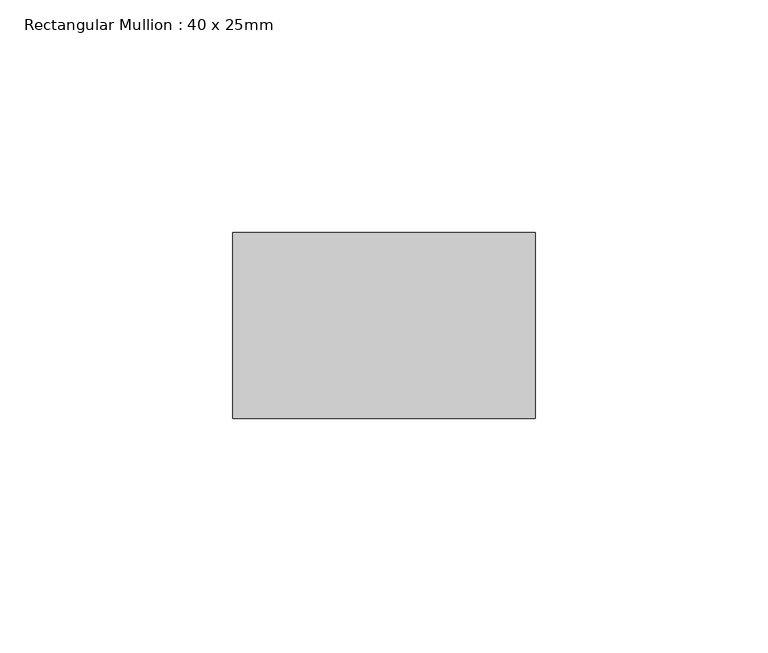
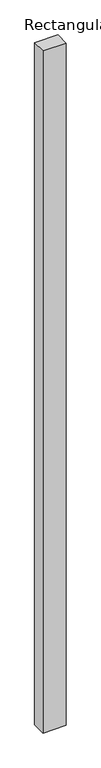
"""IFC4 building model written with IfcOpenShell, lengths in millimetres: member geometry, Rectangular Mullion : 40 x 25mm."""

from ifc_helpers import new_model, si_unit, frame, origin, place, context, project, spatial, polyline, outline, extrude, source, transform, mapped, element, save


def rectangular_mullion_40_x_25mm_c9ac363f(model_context):
    return source(origin(), model_context, "Body", "SweptSolid", [
        extrude(outline(polyline([(0.0, -20.0), (0.0, -60.0), (-65.0, -60.0), (-65.0, -20.0), (0.0, -20.0)])), frame((0.0, 0.0, -2024.6837122), z_axis=(0.0, 0.0, 1.0), x_axis=(1.0, 0.0, 0.0)), (0.0, 0.0, 1.0), 2024.6837122),
    ])


if __name__ == "__main__":
    model = new_model("IFC4")
    model_context = context("Model", 3, world=origin())
    ifc_project = project(units=[si_unit("LENGTHUNIT", "METRE", prefix="MILLI")], contexts=[model_context])
    site = spatial("IfcSite", under=ifc_project)
    building = spatial("IfcBuilding", under=site)
    placement = place(None, origin())
    rectangular_mullion_40_x_25mm_shape = rectangular_mullion_40_x_25mm_c9ac363f(model_context)
    element("IfcMember", 1, ObjectType="Rectangular Mullion : 40 x 25mm", at=placement, inside=building, context=model_context, shape_type="MappedRepresentation", body=[
        mapped(rectangular_mullion_40_x_25mm_shape, transform((0.0, 0.0, 0.0), x_axis=(1.0, 0.0, 0.0), y_axis=(0.0, 1.0, 0.0), z_axis=(0.0, 0.0, 1.0))),
    ])
    save(model, "model.ifc")
